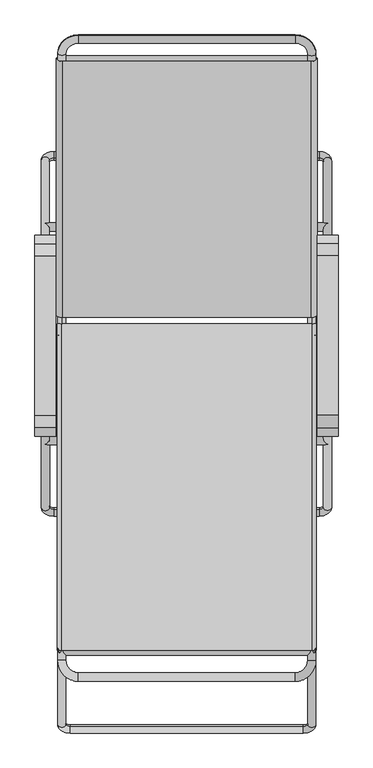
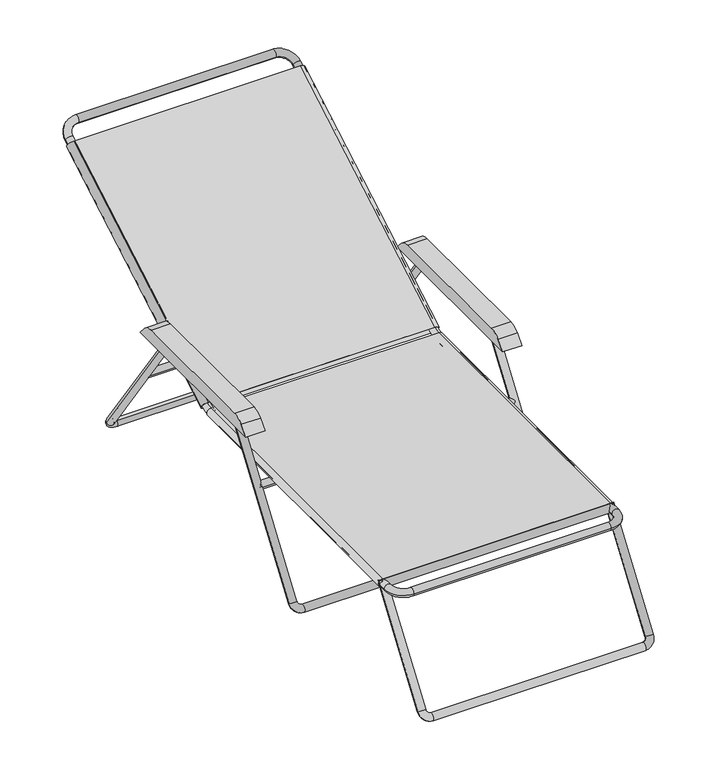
"""IFC4 building model written with IfcOpenShell, lengths in millimetres: furniture geometry, 休闲椅-躺椅 : 休闲椅-躺椅."""

from ifc_helpers import new_model, si_unit, point, frame, frame_2d, origin, place, context, project, spatial, polyline, circle_curve, ellipse_curve, trimmed, segment, composite_curve, outline, extrude, source, transform, mapped, element, save
from ifc_brep_helpers import plane_surface, cylinder_surface, revolved_surface, advanced_brep


def furniture_7e7049e8(model_context):
    return source(origin(), model_context, "Body", "SolidModel", [
        advanced_brep(
        [(313.5555568, 388.5513901, 350.0), (338.9555568, 388.5513901, 350.0), (313.5555568, -613.0486099, 350.0), (338.9555568, -613.0486099, 350.0), (275.4555568, -676.5486099, 350.0), (275.4555568, -651.1486099, 350.0), (-384.9444432, -651.1486099, 350.0), (-384.9444432, -676.5486099, 350.0), (-448.4444432, -613.0486099, 350.0), (-423.0444432, -613.0486099, 350.0), (-423.0444432, 388.5513901, 350.0), (-448.4444432, 388.5513901, 350.0)],
        [
            (0, 1, circle_curve(frame((326.2555568, 388.5513901, 350.0), z_axis=(0.0, 1.0, 0.0), x_axis=(1.0, 0.0, 0.0)), 12.7)),
            (1, 0, circle_curve(frame((326.2555568, 388.5513901, 350.0), z_axis=(0.0, 1.0, 0.0), x_axis=(1.0, 0.0, 0.0)), 12.7)),
            (0, 2),
            (2, 3, circle_curve(frame((326.2555568, -613.0486099, 350.0), z_axis=(0.0, 1.0, 0.0), x_axis=(1.0, 0.0, 0.0)), 12.7)),
            (3, 1),
            (3, 2, circle_curve(frame((326.2555568, -613.0486099, 350.0), z_axis=(0.0, 1.0, 0.0), x_axis=(1.0, 0.0, 0.0)), 12.7)),
            (4, 3, circle_curve(frame((275.4555568, -613.0486099, 350.0), z_axis=(0.0, 0.0, 1.0), x_axis=(1.0, 0.0, 0.0)), 63.5)),
            (2, 5, circle_curve(frame((275.4555568, -613.0486099, 350.0), z_axis=(0.0, 0.0, -1.0), x_axis=(1.0, 0.0, 0.0)), 38.1)),
            (5, 4, circle_curve(frame((275.4555568, -663.8486099, 350.0), z_axis=(1.0, 0.0, 0.0), x_axis=(0.0, -1.0, 0.0)), 12.7)),
            (4, 5, circle_curve(frame((275.4555568, -663.8486099, 350.0), z_axis=(1.0, 0.0, 0.0), x_axis=(0.0, -1.0, 0.0)), 12.7)),
            (5, 6),
            (6, 7, circle_curve(frame((-384.9444432, -663.8486099, 350.0), z_axis=(1.0, 0.0, 0.0), x_axis=(0.0, -1.0, 0.0)), 12.7)),
            (7, 4),
            (7, 6, circle_curve(frame((-384.9444432, -663.8486099, 350.0), z_axis=(1.0, 0.0, 0.0), x_axis=(0.0, -1.0, 0.0)), 12.7)),
            (8, 7, circle_curve(frame((-384.9444432, -613.0486099, 350.0), z_axis=(0.0, 0.0, 1.0), x_axis=(0.0, -1.0, 0.0)), 63.5)),
            (6, 9, circle_curve(frame((-384.9444432, -613.0486099, 350.0), z_axis=(0.0, 0.0, -1.0), x_axis=(0.0, -1.0, 0.0)), 38.1)),
            (9, 8, circle_curve(frame((-435.7444432, -613.0486099, 350.0), z_axis=(0.0, -1.0, 0.0), x_axis=(-1.0, 0.0, 0.0)), 12.7)),
            (8, 9, circle_curve(frame((-435.7444432, -613.0486099, 350.0), z_axis=(0.0, -1.0, 0.0), x_axis=(-1.0, 0.0, 0.0)), 12.7)),
            (10, 11, circle_curve(frame((-435.7444432, 388.5513901, 350.0), z_axis=(0.0, 1.0, 0.0), x_axis=(-1.0, 0.0, 0.0)), 12.7)),
            (11, 10, circle_curve(frame((-435.7444432, 388.5513901, 350.0), z_axis=(0.0, 1.0, 0.0), x_axis=(-1.0, 0.0, 0.0)), 12.7)),
            (9, 10),
            (11, 8),
        ],
        [
            plane_surface(frame((313.5555568, 388.5513901, 350.0), z_axis=(0.0, 1.0, 0.0), x_axis=(0.0, 0.0, -1.0))),
            cylinder_surface(frame((326.2555568, 388.5513901, 350.0), z_axis=(0.0, 1.0, 0.0), x_axis=(1.0, 0.0, 0.0)), 12.7),
            revolved_surface(trimmed(ellipse_curve(frame((326.2555568, -613.0486099, 350.0), z_axis=(0.0, 1.0, 0.0), x_axis=(1.0, 0.0, 0.0)), 12.7, 12.7), [point((313.5555568, -613.0486099, 350.0))], [point((338.9555568, -613.0486099, 350.0))], True, "CARTESIAN"), (275.4555568, -613.0486099, 350.0), (0.0, 0.0, -1.0)),
            revolved_surface(trimmed(ellipse_curve(frame((326.2555568, -613.0486099, 350.0), z_axis=(0.0, 1.0, 0.0), x_axis=(1.0, 0.0, 0.0)), 12.7, 12.7), [point((338.9555568, -613.0486099, 350.0))], [point((313.5555568, -613.0486099, 350.0))], True, "CARTESIAN"), (275.4555568, -613.0486099, 350.0), (0.0, 0.0, -1.0)),
            cylinder_surface(frame((275.4555568, -663.8486099, 350.0), z_axis=(1.0, 0.0, 0.0), x_axis=(0.0, -1.0, 0.0)), 12.7),
            revolved_surface(trimmed(ellipse_curve(frame((-384.9444432, -663.8486099, 350.0), z_axis=(1.0, 0.0, 0.0), x_axis=(0.0, -1.0, 0.0)), 12.7, 12.7), [point((-384.9444432, -651.1486099, 350.0))], [point((-384.9444432, -676.5486099, 350.0))], True, "CARTESIAN"), (-384.9444432, -613.0486099, 350.0), (0.0, 0.0, -1.0)),
            revolved_surface(trimmed(ellipse_curve(frame((-384.9444432, -663.8486099, 350.0), z_axis=(1.0, 0.0, 0.0), x_axis=(0.0, -1.0, 0.0)), 12.7, 12.7), [point((-384.9444432, -676.5486099, 350.0))], [point((-384.9444432, -651.1486099, 350.0))], True, "CARTESIAN"), (-384.9444432, -613.0486099, 350.0), (0.0, 0.0, -1.0)),
            plane_surface(frame((-448.4444432, 388.5513901, 350.0), z_axis=(0.0, 1.0, 0.0), x_axis=(0.0, 0.0, 1.0))),
            cylinder_surface(frame((-435.7444432, -613.0486099, 350.0), z_axis=(0.0, -1.0, 0.0), x_axis=(-1.0, 0.0, 0.0)), 12.7),
        ],
        [
            (0, [[1, 2]]),
            (1, [[-1, 3, 4, 5]]),
            (1, [[-2, -5, 6, -3]]),
            (2, [[7, -4, 8, 9]]),
            (3, [[-8, -6, -7, 10]]),
            (4, [[-9, 11, 12, 13]]),
            (4, [[-10, -13, 14, -11]]),
            (5, [[15, -12, 16, 17]]),
            (6, [[-16, -14, -15, 18]]),
            (7, [[19, 20]]),
            (8, [[-17, 21, -20, 22]]),
            (8, [[-18, -22, -19, -21]]),
        ],
    ),
        advanced_brep(
        [(-448.4444432, 467.0137001, 372.834092), (-423.0444432, 467.0137001, 372.834092), (-448.4444432, 1236.9102841, 817.334092), (-423.0444432, 1236.9102841, 817.334092), (-384.9444432, 1269.905852, 836.384092), (-384.9444432, 1291.9028972, 849.084092), (275.4555568, 1291.9028972, 849.084092), (275.4555568, 1269.905852, 836.384092), (313.5555568, 1236.9102841, 817.334092), (338.9555568, 1236.9102841, 817.334092), (338.9555568, 467.0137001, 372.834092), (313.5555568, 467.0137001, 372.834092)],
        [
            (0, 1, circle_curve(frame((-435.7444432, 467.0137001, 372.834092), z_axis=(0.0, -0.8660254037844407, -0.49999999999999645), x_axis=(1.0, 0.0, 0.0)), 12.7)),
            (1, 0, circle_curve(frame((-435.7444432, 467.0137001, 372.834092), z_axis=(0.0, -0.8660254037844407, -0.49999999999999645), x_axis=(1.0, 0.0, 0.0)), 12.7)),
            (0, 2),
            (2, 3, circle_curve(frame((-435.7444432, 1236.9102841, 817.334092), z_axis=(0.0, -0.8660254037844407, -0.49999999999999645), x_axis=(1.0, 0.0, 0.0)), 12.7)),
            (3, 1),
            (3, 2, circle_curve(frame((-435.7444432, 1236.9102841, 817.334092), z_axis=(0.0, -0.8660254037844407, -0.49999999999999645), x_axis=(1.0, 0.0, 0.0)), 12.7)),
            (4, 3, circle_curve(frame((-384.9444432, 1236.9102841, 817.334092), z_axis=(0.0, -0.49999999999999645, 0.8660254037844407), x_axis=(-1.0, 0.0, 0.0)), 38.1)),
            (2, 5, circle_curve(frame((-384.9444432, 1236.9102841, 817.334092), z_axis=(0.0, 0.49999999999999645, -0.8660254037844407), x_axis=(-1.0, 0.0, 0.0)), 63.5)),
            (5, 4, circle_curve(frame((-384.9444432, 1280.9043746, 842.734092), z_axis=(-1.0, 0.0, 0.0), x_axis=(0.0, -0.8660254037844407, -0.49999999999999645)), 12.7)),
            (4, 5, circle_curve(frame((-384.9444432, 1280.9043746, 842.734092), z_axis=(-1.0, 0.0, 0.0), x_axis=(0.0, -0.8660254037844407, -0.49999999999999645)), 12.7)),
            (5, 6),
            (6, 7, circle_curve(frame((275.4555568, 1280.9043746, 842.734092), z_axis=(-1.0, 0.0, 0.0), x_axis=(0.0, -0.8660254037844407, -0.49999999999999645)), 12.7)),
            (7, 4),
            (7, 6, circle_curve(frame((275.4555568, 1280.9043746, 842.734092), z_axis=(-1.0, 0.0, 0.0), x_axis=(0.0, -0.8660254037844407, -0.49999999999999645)), 12.7)),
            (8, 7, circle_curve(frame((275.4555568, 1236.9102841, 817.334092), z_axis=(0.0, -0.49999999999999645, 0.8660254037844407), x_axis=(0.0, 0.8660254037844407, 0.49999999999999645)), 38.1)),
            (6, 9, circle_curve(frame((275.4555568, 1236.9102841, 817.334092), z_axis=(0.0, 0.49999999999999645, -0.8660254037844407), x_axis=(0.0, 0.8660254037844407, 0.49999999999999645)), 63.5)),
            (9, 8, circle_curve(frame((326.2555568, 1236.9102841, 817.334092), z_axis=(0.0, 0.8660254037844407, 0.49999999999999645), x_axis=(-1.0, 0.0, 0.0)), 12.7)),
            (8, 9, circle_curve(frame((326.2555568, 1236.9102841, 817.334092), z_axis=(0.0, 0.8660254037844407, 0.49999999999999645), x_axis=(-1.0, 0.0, 0.0)), 12.7)),
            (10, 11, circle_curve(frame((326.2555568, 467.0137001, 372.834092), z_axis=(0.0, -0.8660254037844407, -0.4999999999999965), x_axis=(-1.0, 0.0, 0.0)), 12.7)),
            (11, 10, circle_curve(frame((326.2555568, 467.0137001, 372.834092), z_axis=(0.0, -0.8660254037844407, -0.4999999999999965), x_axis=(-1.0, 0.0, 0.0)), 12.7)),
            (9, 10),
            (11, 8),
        ],
        [
            plane_surface(frame((-435.7444432, 460.6637001, 383.8326146), z_axis=(0.0, -0.8660254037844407, -0.49999999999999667), x_axis=(1.0, 0.0, 0.0))),
            cylinder_surface(frame((-435.7444432, 467.0137001, 372.834092), z_axis=(0.0, -0.8660254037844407, -0.49999999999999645), x_axis=(1.0, 0.0, 0.0)), 12.7),
            revolved_surface(trimmed(ellipse_curve(frame((-435.7444432, 1236.9102841, 817.334092), z_axis=(0.0, -0.8660254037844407, -0.49999999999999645), x_axis=(1.0, 0.0, 0.0)), 12.7, 12.7), [point((-448.4444432, 1236.9102841, 817.334092))], [point((-423.0444432, 1236.9102841, 817.334092))], True, "CARTESIAN"), (-384.9444432, 1236.9102841, 817.334092), (0.0, 0.49999999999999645, -0.8660254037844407)),
            revolved_surface(trimmed(ellipse_curve(frame((-435.7444432, 1236.9102841, 817.334092), z_axis=(0.0, -0.8660254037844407, -0.49999999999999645), x_axis=(1.0, 0.0, 0.0)), 12.7, 12.7), [point((-423.0444432, 1236.9102841, 817.334092))], [point((-448.4444432, 1236.9102841, 817.334092))], True, "CARTESIAN"), (-384.9444432, 1236.9102841, 817.334092), (0.0, 0.49999999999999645, -0.8660254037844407)),
            cylinder_surface(frame((-384.9444432, 1280.9043746, 842.734092), z_axis=(-1.0, 0.0, 0.0), x_axis=(0.0, -0.8660254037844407, -0.49999999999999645)), 12.7),
            revolved_surface(trimmed(ellipse_curve(frame((275.4555568, 1280.9043746, 842.734092), z_axis=(-1.0, 0.0, 0.0), x_axis=(0.0, -0.8660254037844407, -0.49999999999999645)), 12.7, 12.7), [point((275.4555568, 1291.9028972, 849.084092))], [point((275.4555568, 1269.905852, 836.384092))], True, "CARTESIAN"), (275.4555568, 1236.9102841, 817.334092), (0.0, 0.49999999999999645, -0.8660254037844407)),
            revolved_surface(trimmed(ellipse_curve(frame((275.4555568, 1280.9043746, 842.734092), z_axis=(-1.0, 0.0, 0.0), x_axis=(0.0, -0.8660254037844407, -0.49999999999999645)), 12.7, 12.7), [point((275.4555568, 1269.905852, 836.384092))], [point((275.4555568, 1291.9028972, 849.084092))], True, "CARTESIAN"), (275.4555568, 1236.9102841, 817.334092), (0.0, 0.49999999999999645, -0.8660254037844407)),
            plane_surface(frame((326.2555568, 473.3637001, 361.8355693), z_axis=(0.0, -0.8660254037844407, -0.49999999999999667), x_axis=(1.0, 0.0, 0.0))),
            cylinder_surface(frame((326.2555568, 1236.9102841, 817.334092), z_axis=(0.0, 0.8660254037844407, 0.4999999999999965), x_axis=(-1.0, 0.0, 0.0)), 12.7),
        ],
        [
            (0, [[1, 2]]),
            (1, [[-1, 3, 4, 5]]),
            (1, [[-2, -5, 6, -3]]),
            (2, [[7, -4, 8, 9]]),
            (3, [[-8, -6, -7, 10]]),
            (4, [[-9, 11, 12, 13]]),
            (4, [[-10, -13, 14, -11]]),
            (5, [[15, -12, 16, 17]]),
            (6, [[-16, -14, -15, 18]]),
            (7, [[19, 20]]),
            (8, [[-17, 21, -20, 22]]),
            (8, [[-18, -22, -19, -21]]),
        ],
    ),
        advanced_brep(
        [(326.2555568, 378.2309539, 362.6029488), (326.2555568, 375.0968316, 337.3970512), (326.2555568, 469.6585167, 388.8406949), (326.2555568, 485.6819858, 369.1326143)],
        [
            (0, 1, circle_curve(frame((326.2555568, 376.6638927, 350.0), z_axis=(0.0, -0.9923581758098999, 0.12339064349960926), x_axis=(0.0, -0.12339064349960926, -0.9923581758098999)), 12.7)),
            (1, 0, circle_curve(frame((326.2555568, 376.6638927, 350.0), z_axis=(0.0, -0.9923581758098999, 0.12339064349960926), x_axis=(0.0, -0.12339064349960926, -0.9923581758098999)), 12.7)),
            (2, 3, circle_curve(frame((326.2555568, 477.6702512, 378.9866546), z_axis=(0.0, 0.7759086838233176, 0.6308452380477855), x_axis=(0.0, 0.6308452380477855, -0.7759086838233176)), 12.7)),
            (3, 2, circle_curve(frame((326.2555568, 477.6702512, 378.9866546), z_axis=(0.0, 0.7759086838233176, 0.6308452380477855), x_axis=(0.0, 0.6308452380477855, -0.7759086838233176)), 12.7)),
            (3, 1, circle_curve(frame((326.2555568, 393.1882187, 482.8954086), z_axis=(-1.0, 0.0, 0.0), x_axis=(0.0, -0.12339064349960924, -0.9923581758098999)), 146.6187925)),
            (0, 2, circle_curve(frame((326.2555568, 393.1882187, 482.8954086), z_axis=(1.0, 0.0, 0.0), x_axis=(0.0, -0.12339064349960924, -0.9923581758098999)), 121.2187925)),
        ],
        [
            plane_surface(frame((326.2555568, 393.1882187, 482.8954086), z_axis=(0.0, -0.9923581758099, 0.12339064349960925), x_axis=(0.0, -0.12339064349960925, -0.9923581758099))),
            plane_surface(frame((326.2555568, 393.1882187, 482.8954086), z_axis=(0.0, 0.7759086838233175, 0.6308452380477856), x_axis=(0.0, 0.6308452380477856, -0.7759086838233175))),
            revolved_surface(trimmed(ellipse_curve(frame((326.2555568, 376.6638927, 350.0), z_axis=(0.0, -0.9923581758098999, 0.12339064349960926), x_axis=(0.0, -0.12339064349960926, -0.9923581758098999)), 12.7, 12.7), [point((326.2555568, 378.2309539, 362.6029488))], [point((326.2555568, 375.0968316, 337.3970512))], True, "CARTESIAN"), (326.2555568, 393.1882187, 482.8954086), (1.0, 0.0, 0.0)),
            revolved_surface(trimmed(ellipse_curve(frame((326.2555568, 376.6638927, 350.0), z_axis=(0.0, -0.9923581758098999, 0.12339064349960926), x_axis=(0.0, -0.12339064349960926, -0.9923581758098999)), 12.7, 12.7), [point((326.2555568, 375.0968316, 337.3970512))], [point((326.2555568, 378.2309539, 362.6029488))], True, "CARTESIAN"), (326.2555568, 393.1882187, 482.8954086), (1.0, 0.0, 0.0)),
        ],
        [
            (0, [[1, 2]]),
            (1, [[3, 4]]),
            (2, [[5, -1, 6, -4]]),
            (3, [[-6, -2, -5, -3]]),
        ],
    ),
        advanced_brep(
        [(-435.7444432, 378.2309539, 362.6029488), (-435.7444432, 375.0968316, 337.3970512), (-435.7444432, 469.6585167, 388.8406949), (-435.7444432, 485.6819858, 369.1326143)],
        [
            (0, 1, circle_curve(frame((-435.7444432, 376.6638927, 350.0), z_axis=(0.0, -0.9923581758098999, 0.12339064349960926), x_axis=(0.0, -0.12339064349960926, -0.9923581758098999)), 12.7)),
            (1, 0, circle_curve(frame((-435.7444432, 376.6638927, 350.0), z_axis=(0.0, -0.9923581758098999, 0.12339064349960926), x_axis=(0.0, -0.12339064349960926, -0.9923581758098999)), 12.7)),
            (2, 3, circle_curve(frame((-435.7444432, 477.6702512, 378.9866546), z_axis=(0.0, 0.7759086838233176, 0.6308452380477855), x_axis=(0.0, 0.6308452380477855, -0.7759086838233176)), 12.7)),
            (3, 2, circle_curve(frame((-435.7444432, 477.6702512, 378.9866546), z_axis=(0.0, 0.7759086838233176, 0.6308452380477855), x_axis=(0.0, 0.6308452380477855, -0.7759086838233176)), 12.7)),
            (3, 1, circle_curve(frame((-435.7444432, 393.1882187, 482.8954086), z_axis=(-1.0, 0.0, 0.0), x_axis=(0.0, -0.12339064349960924, -0.9923581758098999)), 146.6187925)),
            (0, 2, circle_curve(frame((-435.7444432, 393.1882187, 482.8954086), z_axis=(1.0, 0.0, 0.0), x_axis=(0.0, -0.12339064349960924, -0.9923581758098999)), 121.2187925)),
        ],
        [
            plane_surface(frame((326.2555568, 393.1882187, 482.8954086), z_axis=(0.0, -0.9923581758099, 0.12339064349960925), x_axis=(0.0, -0.12339064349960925, -0.9923581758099))),
            plane_surface(frame((326.2555568, 393.1882187, 482.8954086), z_axis=(0.0, 0.7759086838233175, 0.6308452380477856), x_axis=(0.0, 0.6308452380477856, -0.7759086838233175))),
            revolved_surface(trimmed(ellipse_curve(frame((-435.7444432, 376.6638927, 350.0), z_axis=(0.0, -0.9923581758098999, 0.12339064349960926), x_axis=(0.0, -0.12339064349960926, -0.9923581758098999)), 12.7, 12.7), [point((-435.7444432, 378.2309539, 362.6029488))], [point((-435.7444432, 375.0968316, 337.3970512))], True, "CARTESIAN"), (326.2555568, 393.1882187, 482.8954086), (1.0, 0.0, 0.0)),
            revolved_surface(trimmed(ellipse_curve(frame((-435.7444432, 376.6638927, 350.0), z_axis=(0.0, -0.9923581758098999, 0.12339064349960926), x_axis=(0.0, -0.12339064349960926, -0.9923581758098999)), 12.7, 12.7), [point((-435.7444432, 375.0968316, 337.3970512))], [point((-435.7444432, 378.2309539, 362.6029488))], True, "CARTESIAN"), (326.2555568, 393.1882187, 482.8954086), (1.0, 0.0, 0.0)),
        ],
        [
            (0, [[1, 2]]),
            (1, [[3, 4]]),
            (2, [[5, -1, 6, -4]]),
            (3, [[-6, -2, -5, -3]]),
        ],
    ),
        extrude(outline(composite_curve([segment(polyline([(759.1702581, -1.9042155), (-0.116395, -1.9042155)]), True, "CONTINUOUS"), segment(trimmed(circle_curve(frame_2d((-0.116395, 16.0387157)), 17.9429313), [point((-0.116395, -1.9042155))], [point((-0.116395, 33.981647))], False, "CARTESIAN"), True, "CONTINUOUS"), segment(polyline([(-0.116395, 33.981647), (759.1702581, 33.981647)]), True, "CONTINUOUS"), segment(trimmed(circle_curve(frame_2d((759.1702581, 16.0387157)), 17.9429313), [point((759.1702581, 33.981647))], [point((759.1702581, -1.9042155))], False, "CARTESIAN"), True, "CONTINUOUS")], self_intersect=False), holes=[composite_curve([segment(trimmed(circle_curve(frame_2d((759.1702581, 16.1970735)), 16.1970735), [point((759.1702581, 0.0))], [point((759.1702581, 32.3941471))], True, "CARTESIAN"), True, "CONTINUOUS"), segment(polyline([(759.1702581, 32.3941471), (0.0, 32.3941471)]), True, "CONTINUOUS"), segment(trimmed(circle_curve(frame_2d((0.0, 16.1970735)), 16.1970735), [point((0.0, 32.3941471))], [point((0.0, 0.0))], True, "CARTESIAN"), True, "CONTINUOUS"), segment(polyline([(0.0, 0.0), (759.1702581, 0.0)]), True, "CONTINUOUS")], self_intersect=False)]), frame((-434.4211467, 433.3283768, 370.8988357), z_axis=(0.0, 0.8660254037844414, 0.49999999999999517), x_axis=(1.0, 0.0, 0.0)), (0.0, 0.0, 1.0), 900.9788572),
        extrude(outline(composite_curve([segment(polyline([(364.2830095, 326.2555568), (364.2830095, -435.7444432)]), True, "CONTINUOUS"), segment(trimmed(circle_curve(frame_2d((349.9454888, -435.7444432)), 14.3375206), [point((364.2830095, -435.7444432))], [point((335.6079682, -435.7444432))], False, "CARTESIAN"), True, "CONTINUOUS"), segment(polyline([(335.6079682, -435.7444432), (335.6079682, 326.2555568)]), True, "CONTINUOUS"), segment(trimmed(circle_curve(frame_2d((349.9454888, 326.2555568)), 14.3375206), [point((335.6079682, 326.2555568))], [point((364.2830095, 326.2555568))], False, "CARTESIAN"), True, "CONTINUOUS")], self_intersect=False), holes=[composite_curve([segment(trimmed(circle_curve(frame_2d((350.0, 326.2555568)), 12.6955095), [point((362.6955095, 326.2555568))], [point((337.3044905, 326.2555568))], True, "CARTESIAN"), True, "CONTINUOUS"), segment(polyline([(337.3044905, 326.2555568), (337.3044905, -435.7444432)]), True, "CONTINUOUS"), segment(trimmed(circle_curve(frame_2d((350.0, -435.7444432)), 12.6955095), [point((337.3044905, -435.7444432))], [point((362.6955095, -435.7444432))], True, "CARTESIAN"), True, "CONTINUOUS"), segment(polyline([(362.6955095, -435.7444432), (362.6955095, 326.2555568)]), True, "CONTINUOUS")], self_intersect=False)]), frame((0.0, -582.0923599, 0.0), z_axis=(0.0, 1.0, 0.0), x_axis=(0.0, 0.0, 1.0)), (0.0, 0.0, 1.0), 995.319656),
        extrude(outline(composite_curve([segment(trimmed(circle_curve(frame_2d((134.2961977, 492.4152166)), 50.8), [point((96.7811346, 526.6681003))], [point((134.2961977, 543.2152166))], False, "CARTESIAN"), True, "CONTINUOUS"), segment(polyline([(134.2961977, 543.2152166), (619.6953245, 543.2152166)]), True, "CONTINUOUS"), segment(trimmed(circle_curve(frame_2d((619.6953245, 492.4152166)), 50.8), [point((619.6953245, 543.2152166))], [point((657.2088558, 526.6697779))], False, "CARTESIAN"), True, "CONTINUOUS"), segment(polyline([(657.2088558, 526.6697779), (683.532757, 497.8414277), (70.4611292, 497.8414277), (96.7811346, 526.6681003)]), True, "CONTINUOUS")], self_intersect=False)), frame((342.2555568, 0.0, 0.0), z_axis=(1.0, 0.0, 0.0), x_axis=(0.0, 1.0, 0.0)), (0.0, 0.0, 1.0), 64.0),
        extrude(outline(composite_curve([segment(trimmed(circle_curve(frame_2d((134.2961977, 492.4152166)), 50.8), [point((96.7811346, 526.6681003))], [point((134.2961977, 543.2152166))], False, "CARTESIAN"), True, "CONTINUOUS"), segment(polyline([(134.2961977, 543.2152166), (619.6953245, 543.2152166)]), True, "CONTINUOUS"), segment(trimmed(circle_curve(frame_2d((619.6953245, 492.4152166)), 50.8), [point((619.6953245, 543.2152166))], [point((657.2088558, 526.6697779))], False, "CARTESIAN"), True, "CONTINUOUS"), segment(polyline([(657.2088558, 526.6697779), (683.532757, 497.8414277), (70.4611292, 497.8414277), (96.7811346, 526.6681003)]), True, "CONTINUOUS")], self_intersect=False)), frame((-517.7444432, 0.0, 0.0), z_axis=(1.0, 0.0, 0.0), x_axis=(0.0, 1.0, 0.0)), (0.0, 0.0, 1.0), 64.0),
        advanced_brep(
        [(300.8555568, -829.3282272, 1.8832391), (338.9555568, -807.4557998, 33.0795036), (313.5555568, -807.4557998, 33.0795036), (300.8555568, -814.7466089, 22.6807488), (-410.3444432, -814.7466089, 22.6807488), (-410.3444432, -829.3282272, 1.8832391), (-448.4444432, -807.4557998, 33.0795036), (-423.0444432, -807.4557998, 33.0795036), (-423.0444432, -592.5462708, 339.6012451), (-448.4444432, -577.9646526, 360.3987549), (313.5555568, -592.5462708, 339.6012451), (338.9555568, -577.9646526, 360.3987549)],
        [
            (0, 1, circle_curve(frame((300.8555568, -807.4557998, 33.0795036), z_axis=(0.0, -0.8187995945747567, 0.5740794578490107), x_axis=(1.0, 0.0, 0.0)), 38.1)),
            (1, 2, circle_curve(frame((326.2555568, -807.4557998, 33.0795036), z_axis=(0.0, -0.5740794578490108, -0.8187995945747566), x_axis=(1.0, 0.0, 0.0)), 12.7)),
            (2, 3, circle_curve(frame((300.8555568, -807.4557998, 33.0795036), z_axis=(0.0, 0.8187995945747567, -0.5740794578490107), x_axis=(1.0, 0.0, 0.0)), 12.7)),
            (3, 0, circle_curve(frame((300.8555568, -822.037418, 12.2819939), z_axis=(1.0, 0.0, 0.0), x_axis=(0.0, -0.5740794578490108, -0.8187995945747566)), 12.7)),
            (2, 1, circle_curve(frame((326.2555568, -807.4557998, 33.0795036), z_axis=(0.0, -0.5740794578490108, -0.8187995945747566), x_axis=(1.0, 0.0, 0.0)), 12.7)),
            (0, 3, circle_curve(frame((300.8555568, -822.037418, 12.2819939), z_axis=(1.0, 0.0, 0.0), x_axis=(0.0, -0.5740794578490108, -0.8187995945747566)), 12.7)),
            (3, 4),
            (4, 5, circle_curve(frame((-410.3444432, -822.037418, 12.2819939), z_axis=(1.0, 0.0, 0.0), x_axis=(0.0, -0.5740794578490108, -0.8187995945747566)), 12.7)),
            (5, 0),
            (5, 4, circle_curve(frame((-410.3444432, -822.037418, 12.2819939), z_axis=(1.0, 0.0, 0.0), x_axis=(0.0, -0.5740794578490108, -0.8187995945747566)), 12.7)),
            (6, 5, circle_curve(frame((-410.3444432, -807.4557998, 33.0795036), z_axis=(0.0, -0.8187995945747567, 0.5740794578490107), x_axis=(0.0, -0.5740794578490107, -0.8187995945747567)), 38.1)),
            (4, 7, circle_curve(frame((-410.3444432, -807.4557998, 33.0795036), z_axis=(0.0, 0.8187995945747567, -0.5740794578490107), x_axis=(0.0, -0.5740794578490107, -0.8187995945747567)), 12.7)),
            (7, 6, circle_curve(frame((-435.7444432, -807.4557998, 33.0795036), z_axis=(0.0, -0.5740794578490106, -0.8187995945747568), x_axis=(-1.0, 0.0, 0.0)), 12.7)),
            (6, 7, circle_curve(frame((-435.7444432, -807.4557998, 33.0795036), z_axis=(0.0, -0.5740794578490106, -0.8187995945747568), x_axis=(-1.0, 0.0, 0.0)), 12.7)),
            (7, 8),
            (8, 9, ellipse_curve(frame((-435.7444432, -585.2554617, 350.0), z_axis=(-0.7071067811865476, -0.40593547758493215, -0.5789787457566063), x_axis=(0.7071067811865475, -0.40593547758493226, -0.5789787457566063)), 17.9605122, 12.7)),
            (9, 6),
            (9, 8, ellipse_curve(frame((-435.7444432, -585.2554617, 350.0), z_axis=(-0.7071067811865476, -0.40593547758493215, -0.5789787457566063), x_axis=(0.7071067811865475, -0.40593547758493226, -0.5789787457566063)), 17.9605122, 12.7)),
            (8, 10),
            (10, 11, ellipse_curve(frame((326.2555568, -585.2554617, 350.0), z_axis=(-0.7071067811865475, 0.4059354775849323, 0.5789787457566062), x_axis=(-0.7071067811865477, -0.40593547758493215, -0.5789787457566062)), 17.9605122, 12.7)),
            (11, 9),
            (11, 10, ellipse_curve(frame((326.2555568, -585.2554617, 350.0), z_axis=(-0.7071067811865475, 0.4059354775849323, 0.5789787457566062), x_axis=(-0.7071067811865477, -0.40593547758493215, -0.5789787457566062)), 17.9605122, 12.7)),
            (10, 2),
            (1, 11),
        ],
        [
            revolved_surface(trimmed(ellipse_curve(frame((326.2555568, -807.4557998, 33.0795036), z_axis=(0.0, 0.5740794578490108, 0.8187995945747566), x_axis=(1.0, 0.0, 0.0)), 12.7, 12.7), [point((313.5555568, -807.4557998, 33.0795036))], [point((338.9555568, -807.4557998, 33.0795036))], True, "CARTESIAN"), (300.8555568, -807.4557998, 33.0795036), (0.0, 0.8187995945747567, -0.5740794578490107)),
            revolved_surface(trimmed(ellipse_curve(frame((326.2555568, -807.4557998, 33.0795036), z_axis=(0.0, 0.5740794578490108, 0.8187995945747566), x_axis=(1.0, 0.0, 0.0)), 12.7, 12.7), [point((338.9555568, -807.4557998, 33.0795036))], [point((313.5555568, -807.4557998, 33.0795036))], True, "CARTESIAN"), (300.8555568, -807.4557998, 33.0795036), (0.0, 0.8187995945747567, -0.5740794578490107)),
            cylinder_surface(frame((300.8555568, -822.037418, 12.2819939), z_axis=(1.0, 0.0, 0.0), x_axis=(0.0, -0.5740794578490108, -0.8187995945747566)), 12.7),
            revolved_surface(trimmed(ellipse_curve(frame((-410.3444432, -822.037418, 12.2819939), z_axis=(1.0, 0.0, 0.0), x_axis=(0.0, -0.5740794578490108, -0.8187995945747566)), 12.7, 12.7), [point((-410.3444432, -814.7466089, 22.6807488))], [point((-410.3444432, -829.3282272, 1.8832391))], True, "CARTESIAN"), (-410.3444432, -807.4557998, 33.0795036), (0.0, 0.8187995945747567, -0.5740794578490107)),
            revolved_surface(trimmed(ellipse_curve(frame((-410.3444432, -822.037418, 12.2819939), z_axis=(1.0, 0.0, 0.0), x_axis=(0.0, -0.5740794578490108, -0.8187995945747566)), 12.7, 12.7), [point((-410.3444432, -829.3282272, 1.8832391))], [point((-410.3444432, -814.7466089, 22.6807488))], True, "CARTESIAN"), (-410.3444432, -807.4557998, 33.0795036), (0.0, 0.8187995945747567, -0.5740794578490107)),
            cylinder_surface(frame((-435.7444432, -807.4557998, 33.0795036), z_axis=(0.0, -0.5740794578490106, -0.8187995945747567), x_axis=(-1.0, 0.0, 0.0)), 12.7),
            cylinder_surface(frame((-435.7444432, -585.2554617, 350.0), z_axis=(-1.0, 0.0, 0.0), x_axis=(0.0, 0.5740794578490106, 0.8187995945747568)), 12.7),
            cylinder_surface(frame((326.2555568, -585.2554617, 350.0), z_axis=(0.0, 0.5740794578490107, 0.8187995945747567), x_axis=(1.0, 0.0, 0.0)), 12.7),
        ],
        [
            (0, [[1, 2, 3, 4]]),
            (1, [[-3, 5, -1, 6]]),
            (2, [[-4, 7, 8, 9]]),
            (2, [[-6, -9, 10, -7]]),
            (3, [[11, -8, 12, 13]]),
            (4, [[-12, -10, -11, 14]]),
            (5, [[-13, 15, 16, 17]]),
            (5, [[-14, -17, 18, -15]]),
            (6, [[-16, 19, 20, 21]]),
            (6, [[-18, -21, 22, -19]]),
            (7, [[-20, 23, -2, 24]]),
            (7, [[-22, -24, -5, -23]]),
        ],
    ),
        advanced_brep(
        [(-498.5473438, 179.9658715, 497.8414277), (-473.1473438, 179.9658715, 497.8414277), (-498.5473438, -145.8895334, 33.0795036), (-473.1473438, -145.8895334, 33.0795036), (-460.4473438, -153.1803425, 22.6807488), (-460.4473438, -167.7619607, 1.8832391), (348.7006066, -167.7619607, 1.8832391), (348.7006066, -153.1803425, 22.6807488), (361.4006066, -145.8895334, 33.0795036), (386.8006066, -145.8895334, 33.0795036), (386.8006066, 179.9658715, 497.8414277), (361.4006066, 179.9658715, 497.8414277)],
        [
            (0, 1, circle_curve(frame((-485.8473438, 179.9658715, 497.8414277), z_axis=(0.0, 0.5740794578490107, 0.8187995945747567), x_axis=(1.0, 0.0, 0.0)), 12.7)),
            (1, 0, circle_curve(frame((-485.8473438, 179.9658715, 497.8414277), z_axis=(0.0, 0.5740794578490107, 0.8187995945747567), x_axis=(1.0, 0.0, 0.0)), 12.7)),
            (0, 2),
            (2, 3, circle_curve(frame((-485.8473438, -145.8895334, 33.0795036), z_axis=(0.0, 0.5740794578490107, 0.8187995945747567), x_axis=(1.0, 0.0, 0.0)), 12.7)),
            (3, 1),
            (3, 2, circle_curve(frame((-485.8473438, -145.8895334, 33.0795036), z_axis=(0.0, 0.5740794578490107, 0.8187995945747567), x_axis=(1.0, 0.0, 0.0)), 12.7)),
            (4, 3, circle_curve(frame((-460.4473438, -145.8895334, 33.0795036), z_axis=(0.0, 0.8187995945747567, -0.5740794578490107), x_axis=(-1.0, 0.0, 0.0)), 12.7)),
            (2, 5, circle_curve(frame((-460.4473438, -145.8895334, 33.0795036), z_axis=(0.0, -0.8187995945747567, 0.5740794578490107), x_axis=(-1.0, 0.0, 0.0)), 38.1)),
            (5, 4, circle_curve(frame((-460.4473438, -160.4711516, 12.2819939), z_axis=(-1.0, 0.0, 0.0), x_axis=(0.0, 0.5740794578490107, 0.8187995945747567)), 12.7)),
            (4, 5, circle_curve(frame((-460.4473438, -160.4711516, 12.2819939), z_axis=(-1.0, 0.0, 0.0), x_axis=(0.0, 0.5740794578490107, 0.8187995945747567)), 12.7)),
            (5, 6),
            (6, 7, circle_curve(frame((348.7006066, -160.4711516, 12.2819939), z_axis=(-1.0, 0.0, 0.0), x_axis=(0.0, 0.5740794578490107, 0.8187995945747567)), 12.7)),
            (7, 4),
            (7, 6, circle_curve(frame((348.7006066, -160.4711516, 12.2819939), z_axis=(-1.0, 0.0, 0.0), x_axis=(0.0, 0.5740794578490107, 0.8187995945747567)), 12.7)),
            (8, 7, circle_curve(frame((348.7006066, -145.8895334, 33.0795036), z_axis=(0.0, 0.8187995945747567, -0.5740794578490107), x_axis=(0.0, -0.5740794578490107, -0.8187995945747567)), 12.7)),
            (6, 9, circle_curve(frame((348.7006066, -145.8895334, 33.0795036), z_axis=(0.0, -0.8187995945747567, 0.5740794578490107), x_axis=(0.0, -0.5740794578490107, -0.8187995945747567)), 38.1)),
            (9, 8, circle_curve(frame((374.1006066, -145.8895334, 33.0795036), z_axis=(0.0, -0.5740794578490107, -0.8187995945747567), x_axis=(-1.0, 0.0, 0.0)), 12.7)),
            (8, 9, circle_curve(frame((374.1006066, -145.8895334, 33.0795036), z_axis=(0.0, -0.5740794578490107, -0.8187995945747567), x_axis=(-1.0, 0.0, 0.0)), 12.7)),
            (10, 11, circle_curve(frame((374.1006066, 179.9658715, 497.8414277), z_axis=(0.0, 0.5740794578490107, 0.8187995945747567), x_axis=(-1.0, 0.0, 0.0)), 12.7)),
            (11, 10, circle_curve(frame((374.1006066, 179.9658715, 497.8414277), z_axis=(0.0, 0.5740794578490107, 0.8187995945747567), x_axis=(-1.0, 0.0, 0.0)), 12.7)),
            (9, 10),
            (11, 8),
        ],
        [
            plane_surface(frame((-485.8473438, 190.3646264, 490.5506186), z_axis=(0.0, 0.5740794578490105, 0.8187995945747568), x_axis=(1.0, 0.0, 0.0))),
            cylinder_surface(frame((-485.8473438, 179.9658715, 497.8414277), z_axis=(0.0, 0.5740794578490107, 0.8187995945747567), x_axis=(1.0, 0.0, 0.0)), 12.7),
            revolved_surface(trimmed(ellipse_curve(frame((-485.8473438, -145.8895334, 33.0795036), z_axis=(0.0, 0.5740794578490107, 0.8187995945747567), x_axis=(1.0, 0.0, 0.0)), 12.7, 12.7), [point((-498.5473438, -145.8895334, 33.0795036))], [point((-473.1473438, -145.8895334, 33.0795036))], True, "CARTESIAN"), (-460.4473438, -145.8895334, 33.0795036), (0.0, -0.8187995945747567, 0.5740794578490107)),
            revolved_surface(trimmed(ellipse_curve(frame((-485.8473438, -145.8895334, 33.0795036), z_axis=(0.0, 0.5740794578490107, 0.8187995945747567), x_axis=(1.0, 0.0, 0.0)), 12.7, 12.7), [point((-473.1473438, -145.8895334, 33.0795036))], [point((-498.5473438, -145.8895334, 33.0795036))], True, "CARTESIAN"), (-460.4473438, -145.8895334, 33.0795036), (0.0, -0.8187995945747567, 0.5740794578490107)),
            cylinder_surface(frame((-460.4473438, -160.4711516, 12.2819939), z_axis=(-1.0, 0.0, 0.0), x_axis=(0.0, 0.5740794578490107, 0.8187995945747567)), 12.7),
            revolved_surface(trimmed(ellipse_curve(frame((348.7006066, -160.4711516, 12.2819939), z_axis=(-1.0, 0.0, 0.0), x_axis=(0.0, 0.5740794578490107, 0.8187995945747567)), 12.7, 12.7), [point((348.7006066, -167.7619607, 1.8832391))], [point((348.7006066, -153.1803425, 22.6807488))], True, "CARTESIAN"), (348.7006066, -145.8895334, 33.0795036), (0.0, -0.8187995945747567, 0.5740794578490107)),
            revolved_surface(trimmed(ellipse_curve(frame((348.7006066, -160.4711516, 12.2819939), z_axis=(-1.0, 0.0, 0.0), x_axis=(0.0, 0.5740794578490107, 0.8187995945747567)), 12.7, 12.7), [point((348.7006066, -153.1803425, 22.6807488))], [point((348.7006066, -167.7619607, 1.8832391))], True, "CARTESIAN"), (348.7006066, -145.8895334, 33.0795036), (0.0, -0.8187995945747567, 0.5740794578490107)),
            plane_surface(frame((374.1006066, 169.5671166, 505.1322368), z_axis=(0.0, 0.5740794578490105, 0.8187995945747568), x_axis=(1.0, 0.0, 0.0))),
            cylinder_surface(frame((374.1006066, -145.8895334, 33.0795036), z_axis=(0.0, -0.5740794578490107, -0.8187995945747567), x_axis=(-1.0, 0.0, 0.0)), 12.7),
        ],
        [
            (0, [[1, 2]]),
            (1, [[-1, 3, 4, 5]]),
            (1, [[-2, -5, 6, -3]]),
            (2, [[7, -4, 8, 9]]),
            (3, [[-8, -6, -7, 10]]),
            (4, [[-9, 11, 12, 13]]),
            (4, [[-10, -13, 14, -11]]),
            (5, [[15, -12, 16, 17]]),
            (6, [[-16, -14, -15, 18]]),
            (7, [[19, 20]]),
            (8, [[-17, 21, -20, 22]]),
            (8, [[-18, -22, -19, -21]]),
        ],
    ),
        extrude(outline(composite_curve([segment(trimmed(circle_curve(frame_2d((56.6260611, 321.928348)), 12.7), [point((69.3260611, 321.928348))], [point((43.9260611, 321.928348))], False, "CARTESIAN"), True, "CONTINUOUS"), segment(trimmed(circle_curve(frame_2d((56.6260611, 321.928348)), 12.7), [point((43.9260611, 321.928348))], [point((69.3260611, 321.928348))], False, "CARTESIAN"), True, "CONTINUOUS")], self_intersect=False)), frame((-485.7444432, 0.0, 0.0), z_axis=(1.0, 0.0, 0.0), x_axis=(0.0, 1.0, 0.0)), (0.0, 0.0, 1.0), 860.0),
        advanced_brep(
        [(-498.7432917, 584.5978951, 497.8414277), (-473.3432917, 584.5978951, 497.8414277), (-498.7432917, 910.4533, 33.0795036), (-473.3432917, 910.4533, 33.0795036), (-460.6432917, 917.7441091, 22.6807488), (-460.6432917, 932.3257273, 1.8832391), (348.5387933, 932.3257273, 1.8832391), (348.5387933, 917.7441091, 22.6807488), (361.2387933, 910.4533, 33.0795036), (386.6387933, 910.4533, 33.0795036), (386.6387933, 584.5978951, 497.8414277), (361.2387933, 584.5978951, 497.8414277)],
        [
            (0, 1, circle_curve(frame((-486.0432917, 584.5978951, 497.8414277), z_axis=(0.0, -0.5740794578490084, 0.8187995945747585), x_axis=(1.0, 0.0, 0.0)), 12.7)),
            (1, 0, circle_curve(frame((-486.0432917, 584.5978951, 497.8414277), z_axis=(0.0, -0.5740794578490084, 0.8187995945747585), x_axis=(1.0, 0.0, 0.0)), 12.7)),
            (0, 2),
            (2, 3, circle_curve(frame((-486.0432917, 910.4533, 33.0795036), z_axis=(0.0, -0.5740794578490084, 0.8187995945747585), x_axis=(1.0, 0.0, 0.0)), 12.7)),
            (3, 1),
            (3, 2, circle_curve(frame((-486.0432917, 910.4533, 33.0795036), z_axis=(0.0, -0.5740794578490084, 0.8187995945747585), x_axis=(1.0, 0.0, 0.0)), 12.7)),
            (4, 3, circle_curve(frame((-460.6432917, 910.4533, 33.0795036), z_axis=(0.0, 0.8187995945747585, 0.5740794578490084), x_axis=(-1.0, 0.0, 0.0)), 12.7)),
            (2, 5, circle_curve(frame((-460.6432917, 910.4533, 33.0795036), z_axis=(0.0, -0.8187995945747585, -0.5740794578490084), x_axis=(-1.0, 0.0, 0.0)), 38.1)),
            (5, 4, circle_curve(frame((-460.6432917, 925.0349182, 12.2819939), z_axis=(-1.0, 0.0, 0.0), x_axis=(0.0, -0.5740794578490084, 0.8187995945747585)), 12.7)),
            (4, 5, circle_curve(frame((-460.6432917, 925.0349182, 12.2819939), z_axis=(-1.0, 0.0, 0.0), x_axis=(0.0, -0.5740794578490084, 0.8187995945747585)), 12.7)),
            (5, 6),
            (6, 7, circle_curve(frame((348.5387933, 925.0349182, 12.2819939), z_axis=(-1.0, 0.0, 0.0), x_axis=(0.0, -0.5740794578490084, 0.8187995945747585)), 12.7)),
            (7, 4),
            (7, 6, circle_curve(frame((348.5387933, 925.0349182, 12.2819939), z_axis=(-1.0, 0.0, 0.0), x_axis=(0.0, -0.5740794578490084, 0.8187995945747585)), 12.7)),
            (8, 7, circle_curve(frame((348.5387933, 910.4533, 33.0795036), z_axis=(0.0, 0.8187995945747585, 0.5740794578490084), x_axis=(0.0, 0.5740794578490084, -0.8187995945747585)), 12.7)),
            (6, 9, circle_curve(frame((348.5387933, 910.4533, 33.0795036), z_axis=(0.0, -0.8187995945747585, -0.5740794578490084), x_axis=(0.0, 0.5740794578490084, -0.8187995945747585)), 38.1)),
            (9, 8, circle_curve(frame((373.9387933, 910.4533, 33.0795036), z_axis=(0.0, 0.5740794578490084, -0.8187995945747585), x_axis=(-1.0000000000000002, 0.0, 0.0)), 12.7)),
            (8, 9, circle_curve(frame((373.9387933, 910.4533, 33.0795036), z_axis=(0.0, 0.5740794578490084, -0.8187995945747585), x_axis=(-1.0000000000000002, 0.0, 0.0)), 12.7)),
            (10, 11, circle_curve(frame((373.9387933, 584.5978951, 497.8414277), z_axis=(0.0, -0.5740794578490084, 0.8187995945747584), x_axis=(-1.0, 0.0, 0.0)), 12.7)),
            (11, 10, circle_curve(frame((373.9387933, 584.5978951, 497.8414277), z_axis=(0.0, -0.5740794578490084, 0.8187995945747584), x_axis=(-1.0, 0.0, 0.0)), 12.7)),
            (9, 10),
            (11, 8),
        ],
        [
            plane_surface(frame((-486.0432917, 594.99665, 505.1322368), z_axis=(0.0, -0.5740794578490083, 0.8187995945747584), x_axis=(1.0, 0.0, 0.0))),
            cylinder_surface(frame((-486.0432917, 584.5978951, 497.8414277), z_axis=(0.0, -0.5740794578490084, 0.8187995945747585), x_axis=(1.0, 0.0, 0.0)), 12.7),
            revolved_surface(trimmed(ellipse_curve(frame((-486.0432917, 910.4533, 33.0795036), z_axis=(0.0, -0.5740794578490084, 0.8187995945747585), x_axis=(1.0, 0.0, 0.0)), 12.7, 12.7), [point((-498.7432917, 910.4533, 33.0795036))], [point((-473.3432917, 910.4533, 33.0795036))], True, "CARTESIAN"), (-460.6432917, 910.4533, 33.0795036), (0.0, -0.8187995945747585, -0.5740794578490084)),
            revolved_surface(trimmed(ellipse_curve(frame((-486.0432917, 910.4533, 33.0795036), z_axis=(0.0, -0.5740794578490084, 0.8187995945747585), x_axis=(1.0, 0.0, 0.0)), 12.7, 12.7), [point((-473.3432917, 910.4533, 33.0795036))], [point((-498.7432917, 910.4533, 33.0795036))], True, "CARTESIAN"), (-460.6432917, 910.4533, 33.0795036), (0.0, -0.8187995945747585, -0.5740794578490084)),
            cylinder_surface(frame((-460.6432917, 925.0349182, 12.2819939), z_axis=(-1.0000000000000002, 0.0, 0.0), x_axis=(0.0, -0.5740794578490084, 0.8187995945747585)), 12.7),
            revolved_surface(trimmed(ellipse_curve(frame((348.5387933, 925.0349182, 12.2819939), z_axis=(-1.0000000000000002, 0.0, 0.0), x_axis=(0.0, -0.5740794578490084, 0.8187995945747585)), 12.7, 12.7), [point((348.5387933, 932.3257273, 1.8832391))], [point((348.5387933, 917.7441091, 22.6807488))], True, "CARTESIAN"), (348.5387933, 910.4533, 33.0795036), (0.0, -0.8187995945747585, -0.5740794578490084)),
            revolved_surface(trimmed(ellipse_curve(frame((348.5387933, 925.0349182, 12.2819939), z_axis=(-1.0000000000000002, 0.0, 0.0), x_axis=(0.0, -0.5740794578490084, 0.8187995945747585)), 12.7, 12.7), [point((348.5387933, 917.7441091, 22.6807488))], [point((348.5387933, 932.3257273, 1.8832391))], True, "CARTESIAN"), (348.5387933, 910.4533, 33.0795036), (0.0, -0.8187995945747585, -0.5740794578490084)),
            plane_surface(frame((373.9387933, 574.1991402, 490.5506186), z_axis=(0.0, -0.5740794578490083, 0.8187995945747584), x_axis=(1.0, 0.0, 0.0))),
            cylinder_surface(frame((373.9387933, 910.4533, 33.0795036), z_axis=(0.0, 0.5740794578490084, -0.8187995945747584), x_axis=(-1.0, 0.0, 0.0)), 12.7),
        ],
        [
            (0, [[1, 2]]),
            (1, [[-1, 3, 4, 5]]),
            (1, [[-2, -5, 6, -3]]),
            (2, [[7, -4, 8, 9]]),
            (3, [[-8, -6, -7, 10]]),
            (4, [[-9, 11, 12, 13]]),
            (4, [[-10, -13, 14, -11]]),
            (5, [[15, -12, 16, 17]]),
            (6, [[-16, -14, -15, 18]]),
            (7, [[19, 20]]),
            (8, [[-17, 21, -20, 22]]),
            (8, [[-18, -22, -19, -21]]),
        ],
    ),
        extrude(outline(composite_curve([segment(trimmed(circle_curve(frame_2d((707.8081323, 322.1087989)), 12.7), [point((720.5081323, 322.1087989))], [point((695.1081323, 322.1087989))], False, "CARTESIAN"), True, "CONTINUOUS"), segment(trimmed(circle_curve(frame_2d((707.8081323, 322.1087989)), 12.7), [point((695.1081323, 322.1087989))], [point((720.5081323, 322.1087989))], False, "CARTESIAN"), True, "CONTINUOUS")], self_intersect=False)), frame((-485.7444432, 0.0, 0.0), z_axis=(1.0, 0.0, 0.0), x_axis=(0.0, 1.0, 0.0)), (0.0, 0.0, 1.0), 860.0),
    ])


if __name__ == "__main__":
    model = new_model("IFC4")
    model_context = context("Model", 3, world=origin())
    ifc_project = project(units=[si_unit("LENGTHUNIT", "METRE", prefix="MILLI")], contexts=[model_context])
    site = spatial("IfcSite", under=ifc_project)
    building = spatial("IfcBuilding", under=site)
    placement = place(None, origin())
    furniture_shape = furniture_7e7049e8(model_context)
    element("IfcFurniture", 1, ObjectType="休闲椅-躺椅 : 休闲椅-躺椅", at=placement, inside=building, context=model_context, shape_type="MappedRepresentation", body=[
        mapped(furniture_shape, transform((0.0, 0.0, 0.0), x_axis=(1.0, 0.0, 0.0), y_axis=(0.0, 1.0, 0.0), z_axis=(0.0, 0.0, 1.0))),
    ])
    save(model, "model.ifc")
